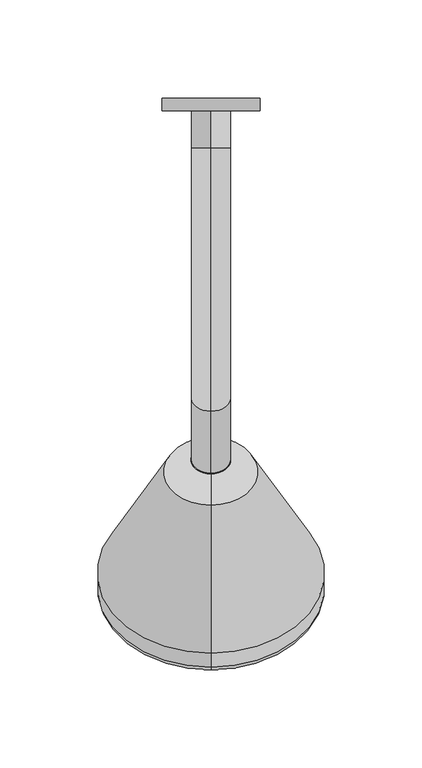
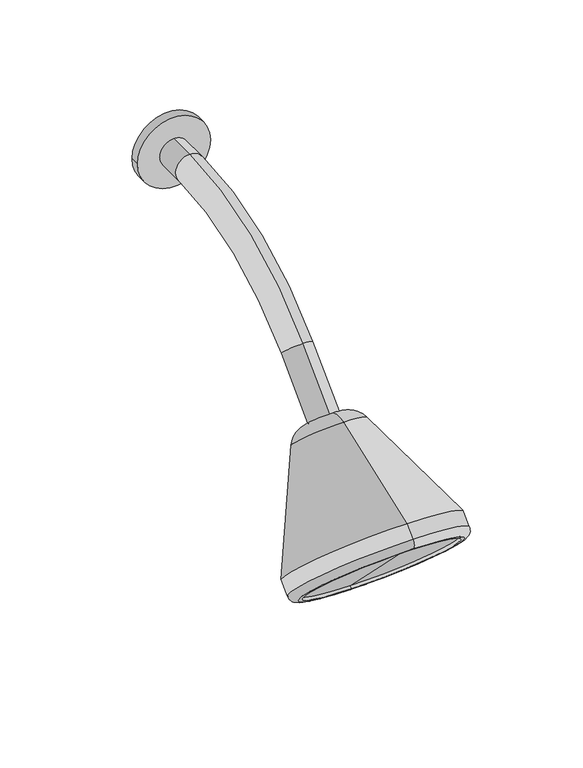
"""IFC4 building model written with IfcOpenShell, lengths in millimetres: flow terminal geometry, Regadera : Accesorios_baño."""

import ifcopenshell
import ifcopenshell.guid

model = None  # the IFC model being written
_history = None  # IfcOwnerHistory: only IFC2X3 demands one
_inside = {}  # id of a spatial element -> (the spatial element, [elements in it])
_under = {}  # id of a project, library or spatial element -> (it, [spatial elements below it])
_declared = {}  # id of a project -> (the project, [libraries it declares])
_typed = {}  # id of a type object -> (the type object, [elements of that type])
_made_of = {}  # id of a material, layer set ... -> (it, [elements and type objects made of it])


def new_model(schema):
    """Start an empty IFC model of exactly this schema.

    Asked for "IFC4X3", IfcOpenShell would pick the latest addendum, in which some entities
    have other attributes; the version numbers below select the first issue.
    IFC2X3 requires an IfcOwnerHistory on every rooted entity: one is made here for all.
    """
    global model, _history
    if schema == "IFC4X3":
        model = ifcopenshell.file(schema_version=(4, 3, 0, 0))
    else:
        model = ifcopenshell.file(schema=schema)
    _inside.clear()
    _under.clear()
    _declared.clear()
    _typed.clear()
    _made_of.clear()
    _history = None
    if model.schema == "IFC2X3":
        org = make("IfcOrganization", Name="unknown")
        user = make(
            "IfcPersonAndOrganization",
            ThePerson=make("IfcPerson", FamilyName="unknown"),
            TheOrganization=org,
        )
        app = make(
            "IfcApplication",
            ApplicationDeveloper=org,
            Version="unknown",
            ApplicationFullName="unknown",
            ApplicationIdentifier="unknown",
        )
        _history = make(
            "IfcOwnerHistory",
            OwningUser=user,
            OwningApplication=app,
            ChangeAction="ADDED",
            CreationDate=0,
        )
    return model


def make(cls, **values):
    """One entity of the class cls with the attributes given. An attribute that is None is left unset."""
    return model.create_entity(
        cls, **{name: value for name, value in values.items() if value is not None}
    )


def rooted(cls, **values):
    """An entity with a GlobalId (a new one), such as an element, a storey or a relation."""
    return make(cls, GlobalId=ifcopenshell.guid.new(), OwnerHistory=_history, **values)


def si_unit(unit_type, name, prefix=None):
    """IfcSIUnit, for example si_unit("LENGTHUNIT", "METRE", prefix="MILLI")."""
    return make("IfcSIUnit", UnitType=unit_type, Prefix=prefix, Name=name)


def assignment(units):
    """IfcUnitAssignment: the units of a project."""
    return None if units is None else make("IfcUnitAssignment", Units=units)


def point(xyz):
    """IfcCartesianPoint."""
    return None if xyz is None else make("IfcCartesianPoint", Coordinates=xyz)


def direction(xyz):
    """IfcDirection."""
    return None if xyz is None else make("IfcDirection", DirectionRatios=xyz)


def frame(location, z_axis=None, x_axis=None):
    """IfcAxis2Placement3D, a coordinate frame: its origin and axes. An axis left out is left unset."""
    return make(
        "IfcAxis2Placement3D",
        Location=point(location),
        Axis=direction(z_axis),
        RefDirection=direction(x_axis),
    )


def frame_2d(location, x_axis=None):
    """IfcAxis2Placement2D, a coordinate frame in the plane: its origin and x axis."""
    return make(
        "IfcAxis2Placement2D", Location=point(location), RefDirection=direction(x_axis)
    )


def origin():
    """The frame at (0, 0, 0) with its axes left unset."""
    return frame((0.0, 0.0, 0.0))


def place(relative_to, where):
    """IfcLocalPlacement: puts the frame where relative to a parent placement (None: the world)."""
    return make(
        "IfcLocalPlacement", PlacementRelTo=relative_to, RelativePlacement=where
    )


def context(
    kind, dimensions, precision=None, world=None, true_north=None, identifier=None
):
    """IfcGeometricRepresentationContext, for example the 3D "Model" context."""
    return make(
        "IfcGeometricRepresentationContext",
        ContextIdentifier=identifier,
        ContextType=kind,
        CoordinateSpaceDimension=dimensions,
        Precision=precision,
        WorldCoordinateSystem=world,
        TrueNorth=true_north,
    )


def project(units=None, contexts=None):
    """IfcProject with its units and contexts."""
    return rooted(
        "IfcProject",
        Name="project",
        RepresentationContexts=contexts,
        UnitsInContext=assignment(units),
    )


def spatial(cls, under=None, at=None, **own):
    """A site, building, storey or space (cls), placed at a placement, below another one or the project."""
    s = rooted(cls, ObjectPlacement=at, **own)
    if under is not None:
        _under.setdefault(under.id(), (under, []))[1].append(s)
    return s


def polyline(points):
    """IfcPolyline through the points."""
    return make("IfcPolyline", Points=[point(p) for p in points])


def circle_curve(where, radius):
    """IfcCircle in the frame where."""
    return make("IfcCircle", Position=where, Radius=radius)


def ellipse_curve(where, semi_axis1, semi_axis2):
    """IfcEllipse in the frame where."""
    return make(
        "IfcEllipse", Position=where, SemiAxis1=semi_axis1, SemiAxis2=semi_axis2
    )


def trimmed(basis, trim1, trim2, sense, master):
    """IfcTrimmedCurve: the piece of a basis curve between two trims."""
    return make(
        "IfcTrimmedCurve",
        BasisCurve=basis,
        Trim1=trim1,
        Trim2=trim2,
        SenseAgreement=sense,
        MasterRepresentation=master,
    )


def segment(curve, same_sense, transition):
    """IfcCompositeCurveSegment."""
    return make(
        "IfcCompositeCurveSegment",
        Transition=transition,
        SameSense=same_sense,
        ParentCurve=curve,
    )


def composite_curve(segments, self_intersect=None):
    """IfcCompositeCurve: segments joined end to end."""
    return make("IfcCompositeCurve", Segments=segments, SelfIntersect=self_intersect)


def outline(outer, holes=None, kind="AREA"):
    """IfcArbitraryClosedProfileDef: a profile drawn as a closed curve; with holes, ...WithVoids."""
    if holes is None:
        return make("IfcArbitraryClosedProfileDef", ProfileType=kind, OuterCurve=outer)
    return make(
        "IfcArbitraryProfileDefWithVoids",
        ProfileType=kind,
        OuterCurve=outer,
        InnerCurves=holes,
    )


def extrude(swept, where, along, depth):
    """IfcExtrudedAreaSolid: the profile swept, set in the frame where, extruded along a direction by depth."""
    return make(
        "IfcExtrudedAreaSolid",
        SweptArea=swept,
        Position=where,
        ExtrudedDirection=direction(along),
        Depth=depth,
    )


def shape(context_of_items, identifier, shape_type, items):
    """IfcShapeRepresentation: the items that make up one representation, for example the "Body"."""
    return make(
        "IfcShapeRepresentation",
        ContextOfItems=context_of_items,
        RepresentationIdentifier=identifier,
        RepresentationType=shape_type,
        Items=items,
    )


def source(mapping_origin, context_of_items, identifier, shape_type, items):
    """IfcRepresentationMap: a shape defined once, which mapped items show again and again."""
    return make(
        "IfcRepresentationMap",
        MappingOrigin=mapping_origin,
        MappedRepresentation=shape(context_of_items, identifier, shape_type, items),
    )


def transform(
    local_origin,
    x_axis=None,
    y_axis=None,
    z_axis=None,
    scale=None,
    scale2=None,
    scale3=None,
    uniform=True,
):
    """IfcCartesianTransformationOperator3D, or its non-uniform kind. x_axis, y_axis, z_axis: its Axis1, 2, 3."""
    if uniform:
        return make(
            "IfcCartesianTransformationOperator3D",
            Axis1=direction(x_axis),
            Axis2=direction(y_axis),
            LocalOrigin=point(local_origin),
            Scale=scale,
            Axis3=direction(z_axis),
        )
    return make(
        "IfcCartesianTransformationOperator3DnonUniform",
        Axis1=direction(x_axis),
        Axis2=direction(y_axis),
        LocalOrigin=point(local_origin),
        Scale=scale,
        Axis3=direction(z_axis),
        Scale2=scale2,
        Scale3=scale3,
    )


def mapped(mapping_source, mapping_target):
    """IfcMappedItem: shows the shape of a source again, moved by a transform."""
    return make(
        "IfcMappedItem", MappingSource=mapping_source, MappingTarget=mapping_target
    )


def made_of(thing, what):
    """Note that an element or type object is made of a material, layer set ...; save() writes the relation."""
    if what is not None:
        _made_of.setdefault(what.id(), (what, []))[1].append(thing)
    return thing


def element(
    cls,
    number,
    at=None,
    inside=None,
    cuts=None,
    type_object=None,
    material=None,
    context=None,
    identifier="Body",
    shape_type=None,
    held_by="IfcProductDefinitionShape",
    body=None,
    shapes=None,
    **own,
):
    """One element of the class cls, such as IfcWall. Its Tag is "e" and its number.

    at: its placement. inside: the storey or other place that contains it. cuts: it is an
    opening in that element (IfcRelVoidsElement). A single representation is given by context,
    identifier, shape_type and body (its items); several are given by shapes. held_by: the class
    of the entity that holds the representations. save() writes the other relations.
    """
    e = rooted(cls, Tag="e%d" % number, ObjectPlacement=at, **own)
    if body is not None:
        shapes = [shape(context, identifier, shape_type, body)]
    if shapes is not None:
        e.Representation = make(held_by, Representations=shapes)
    if inside is not None:
        _inside.setdefault(inside.id(), (inside, []))[1].append(e)
    if cuts is not None:
        rooted(
            "IfcRelVoidsElement", RelatingBuildingElement=cuts, RelatedOpeningElement=e
        )
    if type_object is not None:
        _typed.setdefault(type_object.id(), (type_object, []))[1].append(e)
    return made_of(e, material)


def aggregate(whole, parts):
    """IfcRelAggregates: a whole, such as a stair, and the parts it consists of."""
    return rooted("IfcRelAggregates", RelatingObject=whole, RelatedObjects=parts)


def save(model, path):
    """Write the relations noted so far, then the file.

    IfcRelAggregates (storeys below a building ...), IfcRelContainedInSpatialStructure (elements
    in a storey), IfcRelDefinesByType, IfcRelAssociatesMaterial and IfcRelDeclares: one each for
    every whole, place, type object, material and project.
    """
    for whole, parts in _under.values():
        aggregate(whole, parts)
    for where, things in _inside.values():
        rooted(
            "IfcRelContainedInSpatialStructure",
            RelatedElements=things,
            RelatingStructure=where,
        )
    for kind, things in _typed.values():
        rooted("IfcRelDefinesByType", RelatedObjects=things, RelatingType=kind)
    for what, things in _made_of.values():
        rooted("IfcRelAssociatesMaterial", RelatedObjects=things, RelatingMaterial=what)
    for by, libraries in _declared.values():
        rooted("IfcRelDeclares", RelatingContext=by, RelatedDefinitions=libraries)
    model.write(path)


def plane_surface(at):
    """IfcPlane: the flat surface through the origin of the frame at, square to its z axis."""
    return make("IfcPlane", Position=at)


def cylinder_surface(at, radius):
    """IfcCylindricalSurface: all points at the distance radius from the z axis of the frame at."""
    return make("IfcCylindricalSurface", Position=at, Radius=radius)


def revolved_surface(curve, axis_point, axis_direction):
    """IfcSurfaceOfRevolution: the curve turned about the line through axis_point along axis_direction."""
    return make(
        "IfcSurfaceOfRevolution",
        SweptCurve=make("IfcArbitraryOpenProfileDef", ProfileType="CURVE", Curve=curve),
        AxisPosition=make("IfcAxis1Placement", Location=point(axis_point), Axis=direction(axis_direction)),
    )


def advanced_brep(points, edges, surfaces, faces):
    """IfcAdvancedBrep: a solid bounded by faces that lie on surfaces and meet in shared edges.

    An edge is (start, end): straight between two places in points (the first is 0);
    or (start, end, curve); or (start, end, curve, False) where it runs against its curve.
    A face is (place in surfaces, loops), or (place, loops, False) where it looks against
    its surface's normal. A loop lists edges by number (the first is 1), with a minus sign
    where the edge is run from its end to its start. The first loop is the outer one.
    """
    corners = [point(p) for p in points]
    vertices = [make("IfcVertexPoint", VertexGeometry=c) for c in corners]
    made = []
    for start, end, *more in edges:
        made.append(
            make(
                "IfcEdgeCurve",
                EdgeStart=vertices[start],
                EdgeEnd=vertices[end],
                EdgeGeometry=more[0] if more else make("IfcPolyline", Points=[corners[start], corners[end]]),
                SameSense=more[1] if len(more) > 1 else True,
            )
        )
    hull = []
    for where, loops, *sense in faces:
        bounds = []
        for j, loop in enumerate(loops):
            ring = [make("IfcOrientedEdge", EdgeElement=made[abs(k) - 1], Orientation=k > 0) for k in loop]
            bounds.append(
                make(
                    "IfcFaceOuterBound" if j == 0 else "IfcFaceBound",
                    Bound=make("IfcEdgeLoop", EdgeList=ring),
                    Orientation=True,
                )
            )
        hull.append(make("IfcAdvancedFace", Bounds=bounds, FaceSurface=surfaces[where], SameSense=sense[0] if sense else True))
    return make("IfcAdvancedBrep", Outer=make("IfcClosedShell", CfsFaces=hull))


def flow_terminal_70208929(model_context):
    return source(origin(), model_context, "Body", "SolidModel", [
        extrude(outline(composite_curve([segment(trimmed(circle_curve(frame_2d((1900.0, 125.0)), 25.0), [point((1900.0, 100.0))], [point((1900.0, 150.0))], False, "CARTESIAN"), True, "CONTINUOUS"), segment(trimmed(circle_curve(frame_2d((1900.0, 125.0)), 25.0), [point((1900.0, 150.0))], [point((1900.0, 100.0))], False, "CARTESIAN"), True, "CONTINUOUS")], self_intersect=False)), frame((0.0, -76.4821489, 0.0), z_axis=(0.0, 1.0, 0.0), x_axis=(0.0, 0.0, 1.0)), (0.0, 0.0, 1.0), 6.4821489),
        advanced_brep(
        [(125.0, -277.6624735, 1826.3331882), (125.0, -261.9255696, 1822.8444006), (125.0, -247.1555994, 1808.0744304), (125.0, -243.6668118, 1792.3375265), (125.0, -353.255056, 1798.8197382), (125.0, -271.1802618, 1716.744944), (125.0, -360.3261238, 1791.7486704), (125.0, -278.2513296, 1709.6738762), (125.0, -360.3261238, 1784.6776026), (125.0, -285.3223974, 1709.6738762), (125.0, -358.6229509, 1782.9744296), (125.0, -287.0255704, 1711.3770491), (125.0, -357.2087373, 1784.3886432), (125.0, -285.6113568, 1712.7912627), (125.0, -321.4100471, 1748.5899529), (125.0, -254.5405845, 1815.4594155)],
        [
            (0, 1, circle_curve(frame((125.0, -272.5321714, 1812.2377988), z_axis=(-1.0000000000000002, 0.0, 0.0), x_axis=(0.0, 0.0, -1.0000000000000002)), 15.0)),
            (1, 2, circle_curve(frame((125.0, -254.5405845, 1815.4594155), z_axis=(0.0, -0.7071067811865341, -0.707106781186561), x_axis=(0.0, 0.707106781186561, -0.7071067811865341)), 10.4439461)),
            (2, 3, circle_curve(frame((125.0, -257.7622012, 1797.4678286), z_axis=(-1.0000000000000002, 0.0, 0.0), x_axis=(0.0, -1.0000000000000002, 0.0)), 15.0)),
            (3, 0, circle_curve(frame((125.0, -260.6646427, 1809.3353573), z_axis=(0.0, 0.7071067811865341, 0.707106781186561), x_axis=(0.0, 0.707106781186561, -0.7071067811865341)), 24.0385629)),
            (2, 1, circle_curve(frame((125.0, -254.5405845, 1815.4594155), z_axis=(0.0, -0.7071067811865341, -0.707106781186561), x_axis=(0.0, 0.707106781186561, -0.7071067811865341)), 10.4439461)),
            (0, 3, circle_curve(frame((125.0, -260.6646427, 1809.3353573), z_axis=(0.0, 0.7071067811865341, 0.707106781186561), x_axis=(0.0, 0.707106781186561, -0.7071067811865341)), 24.0385629)),
            (4, 0),
            (3, 5),
            (5, 4, circle_curve(frame((125.0, -312.2176589, 1757.7823411), z_axis=(0.0, 0.7071067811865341, 0.707106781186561), x_axis=(0.0, 0.707106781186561, -0.7071067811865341)), 58.0356436)),
            (4, 5, circle_curve(frame((125.0, -312.2176589, 1757.7823411), z_axis=(0.0, 0.7071067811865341, 0.707106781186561), x_axis=(0.0, 0.707106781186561, -0.7071067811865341)), 58.0356436)),
            (6, 4),
            (5, 7),
            (7, 6, circle_curve(frame((125.0, -319.2887267, 1750.7112733), z_axis=(0.0, 0.7071067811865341, 0.707106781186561), x_axis=(0.0, 0.707106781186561, -0.7071067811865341)), 58.0356436)),
            (6, 7, circle_curve(frame((125.0, -319.2887267, 1750.7112733), z_axis=(0.0, 0.7071067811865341, 0.707106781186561), x_axis=(0.0, 0.707106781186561, -0.7071067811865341)), 58.0356436)),
            (8, 6, circle_curve(frame((125.0, -356.7905899, 1788.2131365), z_axis=(-1.0000000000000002, 0.0, 0.0), x_axis=(0.0, 0.0, -1.0000000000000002)), 5.0)),
            (7, 9, circle_curve(frame((125.0, -281.7868635, 1713.2094101), z_axis=(-1.0000000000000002, 0.0, 0.0), x_axis=(0.0, -1.0000000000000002, 0.0)), 5.0)),
            (9, 8, circle_curve(frame((125.0, -322.8242606, 1747.1757394), z_axis=(0.0, 0.7071067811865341, 0.707106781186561), x_axis=(0.0, 0.707106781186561, -0.7071067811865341)), 53.0356436)),
            (8, 9, circle_curve(frame((125.0, -322.8242606, 1747.1757394), z_axis=(0.0, 0.7071067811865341, 0.707106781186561), x_axis=(0.0, 0.707106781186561, -0.7071067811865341)), 53.0356436)),
            (10, 8),
            (9, 11),
            (11, 10, circle_curve(frame((125.0, -322.8242606, 1747.1757394), z_axis=(0.0, 0.7071067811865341, 0.707106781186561), x_axis=(0.0, 0.707106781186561, -0.7071067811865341)), 50.6269933)),
            (10, 11, circle_curve(frame((125.0, -322.8242606, 1747.1757394), z_axis=(0.0, 0.7071067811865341, 0.707106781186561), x_axis=(0.0, 0.707106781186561, -0.7071067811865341)), 50.6269933)),
            (12, 10),
            (11, 13),
            (13, 12, circle_curve(frame((125.0, -321.4100471, 1748.5899529), z_axis=(0.0, 0.7071067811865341, 0.707106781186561), x_axis=(0.0, 0.707106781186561, -0.7071067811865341)), 50.6269933)),
            (12, 13, circle_curve(frame((125.0, -321.4100471, 1748.5899529), z_axis=(0.0, 0.7071067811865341, 0.707106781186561), x_axis=(0.0, 0.707106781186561, -0.7071067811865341)), 50.6269933)),
            (14, 12),
            (13, 14),
            (1, 15),
            (15, 2),
        ],
        [
            revolved_surface(trimmed(ellipse_curve(frame((125.0, -257.7622012, 1797.4678286), z_axis=(-1.0000000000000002, 0.0, 0.0), x_axis=(0.0, -1.0000000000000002, 0.0)), 15.0, 15.0), [point((125.0, -247.1555994, 1808.0744304))], [point((125.0, -243.6668118, 1792.3375265))], True, "CARTESIAN"), (125.0, -254.5405845, 1815.4594155), (0.0, -0.7071067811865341, -0.707106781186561)),
            revolved_surface(polyline([(125.0, -243.6668118, 1792.3375265), (125.0, -271.1802618, 1716.744944)]), (125.0, -254.5405845, 1815.4594155), (0.0, -0.7071067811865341, -0.707106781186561)),
            cylinder_surface(frame((125.0, -254.5405845, 1815.4594155), z_axis=(0.0, -0.7071067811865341, -0.707106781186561), x_axis=(0.0, 0.707106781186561, -0.7071067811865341)), 58.0356436),
            revolved_surface(trimmed(ellipse_curve(frame((125.0, -281.7868635, 1713.2094101), z_axis=(-1.0000000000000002, 0.0, 0.0), x_axis=(0.0, -1.0000000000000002, 0.0)), 5.0, 5.0), [point((125.0, -278.2513296, 1709.6738762))], [point((125.0, -285.3223974, 1709.6738762))], True, "CARTESIAN"), (125.0, -254.5405845, 1815.4594155), (0.0, -0.7071067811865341, -0.707106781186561)),
            plane_surface(frame((125.0, -322.8242606, 1747.1757394), z_axis=(0.0, -0.7071067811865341, -0.707106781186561), x_axis=(0.0, 0.707106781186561, -0.7071067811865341))),
            revolved_surface(polyline([(125.0, -287.02557037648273, 1711.3770490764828), (125.0, -285.61135677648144, 1712.7912626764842)]), (125.0, -254.5405845, 1815.4594155), (0.0, -0.7071067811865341, -0.707106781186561)),
            plane_surface(frame((125.0, -321.4100471, 1748.5899529), z_axis=(0.0, -0.7071067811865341, -0.707106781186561), x_axis=(0.0, 0.707106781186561, -0.7071067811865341))),
            plane_surface(frame((125.0, -254.5405845, 1815.4594155), z_axis=(0.0, 0.7071067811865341, 0.707106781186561), x_axis=(0.0, 0.707106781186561, -0.7071067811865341))),
        ],
        [
            (0, [[1, 2, 3, 4]]),
            (0, [[-3, 5, -1, 6]]),
            (1, [[7, -4, 8, 9]]),
            (1, [[-8, -6, -7, 10]]),
            (2, [[11, -9, 12, 13]]),
            (2, [[-12, -10, -11, 14]]),
            (3, [[15, -13, 16, 17]]),
            (3, [[-16, -14, -15, 18]]),
            (4, [[19, -17, 20, 21]]),
            (4, [[-20, -18, -19, 22]]),
            (5, [[23, -21, 24, 25]]),
            (5, [[-24, -22, -23, 26]]),
            (6, [[27, -25, 28]]),
            (6, [[-28, -26, -27]]),
            (7, [[29, 30, -2]]),
            (7, [[-30, -29, -5]]),
        ],
    ),
        advanced_brep(
        [(125.0, -76.4821489, 1890.0), (125.0, -76.4821489, 1910.0), (125.0, -95.4415588, 1910.0), (125.0, -95.4415588, 1890.0), (125.0, -229.7918472, 1854.3502884), (125.0, -215.6497116, 1840.2081528), (125.0, -247.4695167, 1808.3883476), (125.0, -261.6116524, 1822.5304833)],
        [
            (0, 1, circle_curve(frame((125.0, -76.4821489, 1900.0), z_axis=(0.0, 1.0, 0.0), x_axis=(0.0, 0.0, 1.0)), 10.0)),
            (1, 0, circle_curve(frame((125.0, -76.4821489, 1900.0), z_axis=(0.0, 1.0, 0.0), x_axis=(0.0, 0.0, 1.0)), 10.0)),
            (1, 2),
            (2, 3, circle_curve(frame((125.0, -95.4415588, 1900.0), z_axis=(0.0, 1.0, 0.0), x_axis=(0.0, 0.0, 1.0)), 10.0)),
            (3, 0),
            (3, 2, circle_curve(frame((125.0, -95.4415588, 1900.0), z_axis=(0.0, 1.0, 0.0), x_axis=(0.0, 0.0, 1.0)), 10.0)),
            (4, 5, circle_curve(frame((125.0, -222.7207794, 1847.2792206), z_axis=(0.0, 0.7071067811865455, 0.7071067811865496), x_axis=(0.0, -0.7071067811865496, 0.7071067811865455)), 10.0)),
            (5, 3, circle_curve(frame((125.0, -95.4415588, 1720.0), z_axis=(-1.0, 0.0, 0.0), x_axis=(0.0, 0.0, 1.0)), 170.0)),
            (2, 4, circle_curve(frame((125.0, -95.4415588, 1720.0), z_axis=(1.0, 0.0, 0.0), x_axis=(0.0, 0.0, 1.0)), 190.0)),
            (5, 4, circle_curve(frame((125.0, -222.7207794, 1847.2792206), z_axis=(0.0, 0.7071067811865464, 0.7071067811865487), x_axis=(0.0, -0.7071067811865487, 0.7071067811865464)), 10.0)),
            (6, 7, circle_curve(frame((125.0, -254.5405845, 1815.4594155), z_axis=(0.0, -0.7071067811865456, -0.7071067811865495), x_axis=(0.0, -0.7071067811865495, 0.7071067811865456)), 10.0)),
            (7, 6, circle_curve(frame((125.0, -254.5405845, 1815.4594155), z_axis=(0.0, -0.7071067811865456, -0.7071067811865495), x_axis=(0.0, -0.7071067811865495, 0.7071067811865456)), 10.0)),
            (4, 7),
            (6, 5),
        ],
        [
            plane_surface(frame((125.0, -76.4821489, 1900.0), z_axis=(0.0, 1.0, 0.0), x_axis=(1.0, 0.0, 0.0))),
            cylinder_surface(frame((125.0, -76.4821489, 1900.0), z_axis=(0.0, 1.0, 0.0), x_axis=(0.0, 0.0, 1.0)), 10.0),
            revolved_surface(trimmed(ellipse_curve(frame((125.0, -95.4415588, 1900.0), z_axis=(0.0, -1.0, 0.0), x_axis=(0.0, 0.0, 1.0)), 10.0, 10.0), [point((125.0, -95.4415588, 1890.0))], [point((125.0, -95.4415588, 1910.0))], True, "CARTESIAN"), (125.0, -95.4415588, 1720.0), (-1.0, 0.0, 0.0)),
            revolved_surface(trimmed(ellipse_curve(frame((125.0, -95.4415588, 1900.0), z_axis=(0.0, -1.0, 0.0), x_axis=(0.0, 0.0, 1.0)), 10.0, 10.0), [point((125.0, -95.4415588, 1910.0))], [point((125.0, -95.4415588, 1890.0))], True, "CARTESIAN"), (125.0, -95.4415588, 1720.0), (-1.0, 0.0, 0.0)),
            plane_surface(frame((125.0, -254.5405845, 1815.4594155), z_axis=(0.0, -0.7071067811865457, -0.7071067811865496), x_axis=(1.0, 0.0, 0.0))),
            cylinder_surface(frame((125.0, -222.7207794, 1847.2792206), z_axis=(0.0, 0.7071067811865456, 0.7071067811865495), x_axis=(0.0, -0.7071067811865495, 0.7071067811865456)), 10.0),
        ],
        [
            (0, [[1, 2]]),
            (1, [[3, 4, 5, -2]]),
            (1, [[-5, 6, -3, -1]]),
            (2, [[7, 8, -4, 9]]),
            (3, [[10, -9, -6, -8]]),
            (4, [[11, 12]]),
            (5, [[13, -11, 14, -7]]),
            (5, [[-14, -12, -13, -10]]),
        ],
    ),
    ])


if __name__ == "__main__":
    model = new_model("IFC4")
    model_context = context("Model", 3, world=origin())
    ifc_project = project(units=[si_unit("LENGTHUNIT", "METRE", prefix="MILLI")], contexts=[model_context])
    site = spatial("IfcSite", under=ifc_project)
    building = spatial("IfcBuilding", under=site)
    placement = place(None, origin())
    flow_terminal_shape = flow_terminal_70208929(model_context)
    element("IfcFlowTerminal", 1, ObjectType="Regadera : Accesorios_baño", at=placement, inside=building, context=model_context, shape_type="MappedRepresentation", body=[
        mapped(flow_terminal_shape, transform((0.0, 0.0, 0.0), x_axis=(1.0, 0.0, 0.0), y_axis=(0.0, 1.0, 0.0), z_axis=(0.0, 0.0, 1.0))),
    ])
    save(model, "model.ifc")
